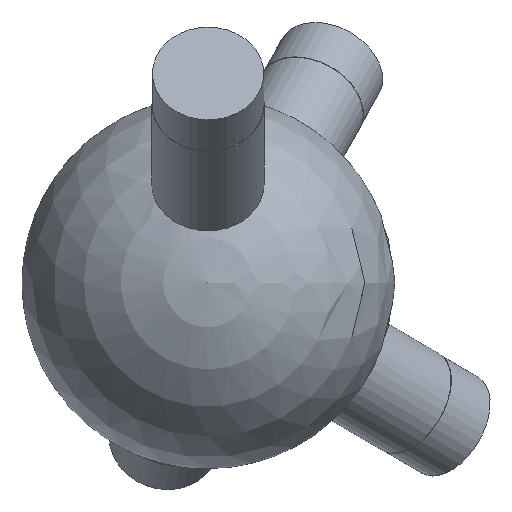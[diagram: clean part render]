
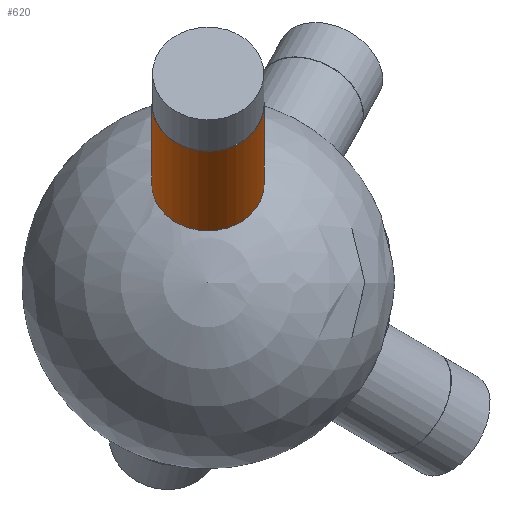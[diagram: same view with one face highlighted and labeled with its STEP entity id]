
A CAD part, top view. The second image highlights one B-rep face of the part: STEP entity #620.
In plain terms, the highlighted cylindrical face has radius 6 mm (diameter 12 mm), a full revolution.
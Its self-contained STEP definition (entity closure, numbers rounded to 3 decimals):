
#35 = SPHERICAL_SURFACE('',#36,20.);
#36 = AXIS2_PLACEMENT_3D('',#37,#38,#39);
#37 = CARTESIAN_POINT('',(0.,0.,0.));
#38 = DIRECTION('',(0.,0.,1.));
#39 = DIRECTION('',(1.,0.,-0.));
#351 = EDGE_CURVE('',#352,#352,#354,.T.);
#352 = VERTEX_POINT('',#353);
#353 = CARTESIAN_POINT('',(0.018,15.537,
    12.594));
#354 = SURFACE_CURVE('',#355,(#360,#443),.PCURVE_S1.);
#355 = CIRCLE('',#356,6.);
#356 = AXIS2_PLACEMENT_3D('',#357,#358,#359);
#357 = CARTESIAN_POINT('',(0.018,10.534,
    15.907));
#358 = DIRECTION('',(0.001,0.552,0.834));
#359 = DIRECTION('',(0.,-0.834,0.552)
  );
#360 = PCURVE('',#35,#361);
#361 = DEFINITIONAL_REPRESENTATION('',(#362),#442);
#362 = B_SPLINE_CURVE_WITH_KNOTS('',8,(#363,#364,#365,#366,#367,#368,
    #369,#370,#371,#372,#373,#374,#375,#376,#377,#378,#379,#380,#381,
    #382,#383,#384,#385,#386,#387,#388,#389,#390,#391,#392,#393,#394,
    #395,#396,#397,#398,#399,#400,#401,#402,#403,#404,#405,#406,#407,
    #408,#409,#410,#411,#412,#413,#414,#415,#416,#417,#418,#419,#420,
    #421,#422,#423,#424,#425,#426,#427,#428,#429,#430,#431,#432,#433,
    #434,#435,#436,#437,#438,#439,#440,#441),.UNSPECIFIED.,.T.,.F.,(9,7,
    7,7,7,7,7,7,7,7,7,9),(3.142,3.927,4.614,
    5.216,5.742,5.972,6.188,
    6.592,6.946,7.566,8.495,
    9.425),.UNSPECIFIED.);
#363 = CARTESIAN_POINT('',(1.57,0.681));
#364 = CARTESIAN_POINT('',(1.608,0.681));
#365 = CARTESIAN_POINT('',(1.645,0.684));
#366 = CARTESIAN_POINT('',(1.683,0.688));
#367 = CARTESIAN_POINT('',(1.721,0.695));
#368 = CARTESIAN_POINT('',(1.757,0.705));
#369 = CARTESIAN_POINT('',(1.793,0.716));
#370 = CARTESIAN_POINT('',(1.828,0.73));
#371 = CARTESIAN_POINT('',(1.892,0.759));
#372 = CARTESIAN_POINT('',(1.921,0.775));
#373 = CARTESIAN_POINT('',(1.949,0.791));
#374 = CARTESIAN_POINT('',(1.975,0.809));
#375 = CARTESIAN_POINT('',(2.,0.829));
#376 = CARTESIAN_POINT('',(2.024,0.849));
#377 = CARTESIAN_POINT('',(2.046,0.871));
#378 = CARTESIAN_POINT('',(2.083,0.913));
#379 = CARTESIAN_POINT('',(2.099,0.934));
#380 = CARTESIAN_POINT('',(2.113,0.955));
#381 = CARTESIAN_POINT('',(2.124,0.977));
#382 = CARTESIAN_POINT('',(2.134,0.999));
#383 = CARTESIAN_POINT('',(2.14,1.021));
#384 = CARTESIAN_POINT('',(2.144,1.044));
#385 = CARTESIAN_POINT('',(2.143,1.086));
#386 = CARTESIAN_POINT('',(2.14,1.106));
#387 = CARTESIAN_POINT('',(2.133,1.125));
#388 = CARTESIAN_POINT('',(2.122,1.145));
#389 = CARTESIAN_POINT('',(2.107,1.164));
#390 = CARTESIAN_POINT('',(2.087,1.182));
#391 = CARTESIAN_POINT('',(2.061,1.199));
#392 = CARTESIAN_POINT('',(2.014,1.222));
#393 = CARTESIAN_POINT('',(1.998,1.229));
#394 = CARTESIAN_POINT('',(1.981,1.236));
#395 = CARTESIAN_POINT('',(1.963,1.242));
#396 = CARTESIAN_POINT('',(1.943,1.248));
#397 = CARTESIAN_POINT('',(1.922,1.253));
#398 = CARTESIAN_POINT('',(1.9,1.259));
#399 = CARTESIAN_POINT('',(1.854,1.268));
#400 = CARTESIAN_POINT('',(1.831,1.272));
#401 = CARTESIAN_POINT('',(1.806,1.276));
#402 = CARTESIAN_POINT('',(1.78,1.279));
#403 = CARTESIAN_POINT('',(1.754,1.282));
#404 = CARTESIAN_POINT('',(1.727,1.284));
#405 = CARTESIAN_POINT('',(1.699,1.286));
#406 = CARTESIAN_POINT('',(1.617,1.291));
#407 = CARTESIAN_POINT('',(1.562,1.292));
#408 = CARTESIAN_POINT('',(1.506,1.291));
#409 = CARTESIAN_POINT('',(1.451,1.289));
#410 = CARTESIAN_POINT('',(1.398,1.285));
#411 = CARTESIAN_POINT('',(1.349,1.279));
#412 = CARTESIAN_POINT('',(1.303,1.272));
#413 = CARTESIAN_POINT('',(1.225,1.256));
#414 = CARTESIAN_POINT('',(1.192,1.247));
#415 = CARTESIAN_POINT('',(1.162,1.238));
#416 = CARTESIAN_POINT('',(1.135,1.228));
#417 = CARTESIAN_POINT('',(1.111,1.218));
#418 = CARTESIAN_POINT('',(1.091,1.207));
#419 = CARTESIAN_POINT('',(1.073,1.195));
#420 = CARTESIAN_POINT('',(1.031,1.162));
#421 = CARTESIAN_POINT('',(1.012,1.14));
#422 = CARTESIAN_POINT('',(1.,1.117));
#423 = CARTESIAN_POINT('',(0.993,1.094));
#424 = CARTESIAN_POINT('',(0.991,1.071));
#425 = CARTESIAN_POINT('',(0.993,1.047));
#426 = CARTESIAN_POINT('',(0.998,1.024));
#427 = CARTESIAN_POINT('',(1.018,0.967));
#428 = CARTESIAN_POINT('',(1.037,0.934));
#429 = CARTESIAN_POINT('',(1.061,0.901));
#430 = CARTESIAN_POINT('',(1.088,0.871));
#431 = CARTESIAN_POINT('',(1.12,0.842));
#432 = CARTESIAN_POINT('',(1.154,0.815));
#433 = CARTESIAN_POINT('',(1.19,0.791));
#434 = CARTESIAN_POINT('',(1.266,0.748));
#435 = CARTESIAN_POINT('',(1.307,0.73));
#436 = CARTESIAN_POINT('',(1.348,0.714));
#437 = CARTESIAN_POINT('',(1.391,0.701));
#438 = CARTESIAN_POINT('',(1.435,0.691));
#439 = CARTESIAN_POINT('',(1.48,0.684));
#440 = CARTESIAN_POINT('',(1.525,0.681));
#441 = CARTESIAN_POINT('',(1.57,0.681));
#442 = ( GEOMETRIC_REPRESENTATION_CONTEXT(2) 
PARAMETRIC_REPRESENTATION_CONTEXT() REPRESENTATION_CONTEXT('2D SPACE',''
  ) );
#443 = PCURVE('',#444,#449);
#444 = CYLINDRICAL_SURFACE('',#445,6.);
#445 = AXIS2_PLACEMENT_3D('',#446,#447,#448);
#446 = CARTESIAN_POINT('',(0.,0.,0.));
#447 = DIRECTION('',(0.001,0.552,0.834));
#448 = DIRECTION('',(0.,0.834,-0.552)
  );
#449 = DEFINITIONAL_REPRESENTATION('',(#450),#454);
#450 = LINE('',#451,#452);
#451 = CARTESIAN_POINT('',(-3.142,19.079));
#452 = VECTOR('',#453,1.);
#453 = DIRECTION('',(1.,0.));
#454 = ( GEOMETRIC_REPRESENTATION_CONTEXT(2) 
PARAMETRIC_REPRESENTATION_CONTEXT() REPRESENTATION_CONTEXT('2D SPACE',''
  ) );
#620 = ADVANCED_FACE('',(#621),#444,.T.);
#621 = FACE_BOUND('',#622,.T.);
#622 = EDGE_LOOP('',(#623,#646,#673,#674));
#623 = ORIENTED_EDGE('',*,*,#624,.T.);
#624 = EDGE_CURVE('',#352,#625,#627,.T.);
#625 = VERTEX_POINT('',#626);
#626 = CARTESIAN_POINT('',(0.033,24.008,
    25.386));
#627 = SEAM_CURVE('',#628,(#632,#639),.PCURVE_S1.);
#628 = LINE('',#629,#630);
#629 = CARTESIAN_POINT('',(0.,5.002,
    -3.313));
#630 = VECTOR('',#631,1.);
#631 = DIRECTION('',(0.001,0.552,0.834));
#632 = PCURVE('',#444,#633);
#633 = DEFINITIONAL_REPRESENTATION('',(#634),#638);
#634 = LINE('',#635,#636);
#635 = CARTESIAN_POINT('',(6.283,-0.));
#636 = VECTOR('',#637,1.);
#637 = DIRECTION('',(0.,1.));
#638 = ( GEOMETRIC_REPRESENTATION_CONTEXT(2) 
PARAMETRIC_REPRESENTATION_CONTEXT() REPRESENTATION_CONTEXT('2D SPACE',''
  ) );
#639 = PCURVE('',#444,#640);
#640 = DEFINITIONAL_REPRESENTATION('',(#641),#645);
#641 = LINE('',#642,#643);
#642 = CARTESIAN_POINT('',(0.,-0.));
#643 = VECTOR('',#644,1.);
#644 = DIRECTION('',(0.,1.));
#645 = ( GEOMETRIC_REPRESENTATION_CONTEXT(2) 
PARAMETRIC_REPRESENTATION_CONTEXT() REPRESENTATION_CONTEXT('2D SPACE',''
  ) );
#646 = ORIENTED_EDGE('',*,*,#647,.F.);
#647 = EDGE_CURVE('',#625,#625,#648,.T.);
#648 = SURFACE_CURVE('',#649,(#654,#661),.PCURVE_S1.);
#649 = CIRCLE('',#650,6.);
#650 = AXIS2_PLACEMENT_3D('',#651,#652,#653);
#651 = CARTESIAN_POINT('',(0.033,19.005,
    28.699));
#652 = DIRECTION('',(0.001,0.552,0.834));
#653 = DIRECTION('',(0.,0.834,-0.552)
  );
#654 = PCURVE('',#444,#655);
#655 = DEFINITIONAL_REPRESENTATION('',(#656),#660);
#656 = LINE('',#657,#658);
#657 = CARTESIAN_POINT('',(0.,34.421));
#658 = VECTOR('',#659,1.);
#659 = DIRECTION('',(1.,0.));
#660 = ( GEOMETRIC_REPRESENTATION_CONTEXT(2) 
PARAMETRIC_REPRESENTATION_CONTEXT() REPRESENTATION_CONTEXT('2D SPACE',''
  ) );
#661 = PCURVE('',#662,#667);
#662 = PLANE('',#663);
#663 = AXIS2_PLACEMENT_3D('',#664,#665,#666);
#664 = CARTESIAN_POINT('',(0.033,19.005,
    28.699));
#665 = DIRECTION('',(0.001,0.552,0.834));
#666 = DIRECTION('',(0.,0.834,-0.552)
  );
#667 = DEFINITIONAL_REPRESENTATION('',(#668),#672);
#668 = CIRCLE('',#669,6.);
#669 = AXIS2_PLACEMENT_2D('',#670,#671);
#670 = CARTESIAN_POINT('',(0.,0.));
#671 = DIRECTION('',(1.,0.));
#672 = ( GEOMETRIC_REPRESENTATION_CONTEXT(2) 
PARAMETRIC_REPRESENTATION_CONTEXT() REPRESENTATION_CONTEXT('2D SPACE',''
  ) );
#673 = ORIENTED_EDGE('',*,*,#624,.F.);
#674 = ORIENTED_EDGE('',*,*,#351,.T.);
